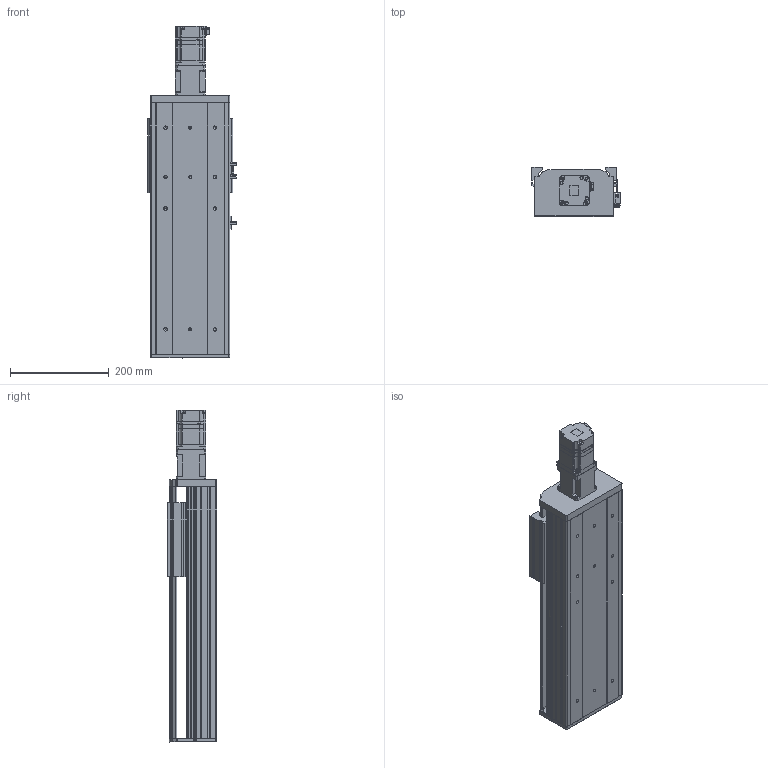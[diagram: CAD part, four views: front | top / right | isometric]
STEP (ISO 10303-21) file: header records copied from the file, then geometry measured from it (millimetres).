
FILE_DESCRIPTION(('Creo Elements/Direct Modeling STEP Export'),'2;1');
FILE_NAME('APOS160SON-ST300.stp','2022-02-18T11:39:53',(''),(''),'Creo Elements/Direct Modeling STEP processor for AP203 (Solid Model)','Creo Elements/Direct Modeling 19.0G 27-Nov-2017 (C) Parametric Technology GmbH','');
FILE_SCHEMA(('CONFIG_CONTROL_DESIGN'));
Length unit declared in the file: millimetre
Products named in the file (20): open_shell.0; open_shell.1; open_shell.2; open_shell.3; COUPLING(SDWA-31C); EE_SX672; APOS160_END_PLATE; 160_end_cover_1218; MOTOR_BRACKET_-200_400W; p1; p2; APOS160_Carrier; p3; APOS160_BASE_FRAME-364L; sgmjv_02a_a21; APOS120_SENSOR_DOG; APOS160SON-1520-ST300-20NN00-N-I3R; APOS160SON-ST300
Assembly tree (21 placements, depth 4):
  APOS160SON-ST300
    APOS160SON-1520-ST300-20NN00-N-I3R
      APOS120_SENSOR_DOG
      EE_SX672  x3
      sgmjv_02a_a21
      APOS160_BASE_FRAME-364L
        p3
        p2
        p1
      APOS160_Carrier
        p2
        p1
      MOTOR_BRACKET_-200_400W
      160_end_cover_1218
      APOS160_END_PLATE
      COUPLING(SDWA-31C)
        open_shell.3
        open_shell.2
        open_shell.1
        open_shell.0
Bounding box: 180.2 x 100 x 673.1 mm (x, y, z)
Volume: 3982150.9 mm3; surface area: 803117.1 mm2
Topology: 13 solids, 17 shells, 1841 faces, 5186 edges, 3425 vertices
Faces by surface type: plane 1036, cylinder 566, cone 226, bspline 10, sphere 2, torus 1
Entity records: 56292 total; most frequent: CARTESIAN_POINT 10746, ORIENTED_EDGE 9453, DIRECTION 8581, EDGE_CURVE 4782, VERTEX_POINT 3185, VECTOR 3097, LINE 3097, AXIS2_PLACEMENT_3D 2742
